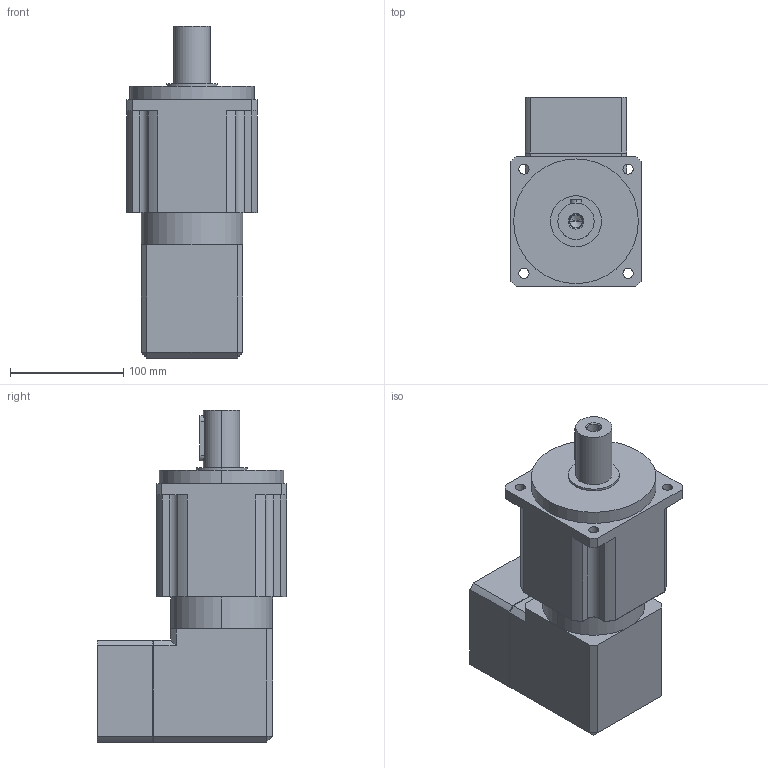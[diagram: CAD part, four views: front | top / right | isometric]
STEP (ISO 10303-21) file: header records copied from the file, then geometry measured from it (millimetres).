
FILE_DESCRIPTION (( 'STEP AP203' ), '1' );
FILE_NAME ('IBR115L2.STEP', '2015-03-12T07:41:09', ( 'User' ), ( 'china' ), 'SwSTEP 2.0', 'SolidWorks 2015', '' );
FILE_SCHEMA (( 'CONFIG_CONTROL_DESIGN' ));
Length unit declared in the file: millimetre
Products named in the file (1): IBR115L2
Bounding box: 115 x 167.1 x 293 mm (x, y, z)
Volume: 2811071.7 mm3; surface area: 152638.1 mm2
Topology: 1 solids, 1 shells, 165 faces, 392 edges, 237 vertices
Faces by surface type: cylinder 83, plane 58, cone 12, torus 12
Entity records: 4865 total; most frequent: CARTESIAN_POINT 960, DIRECTION 834, ORIENTED_EDGE 764, EDGE_CURVE 382, AXIS2_PLACEMENT_3D 313, VERTEX_POINT 237, VECTOR 208, LINE 208
